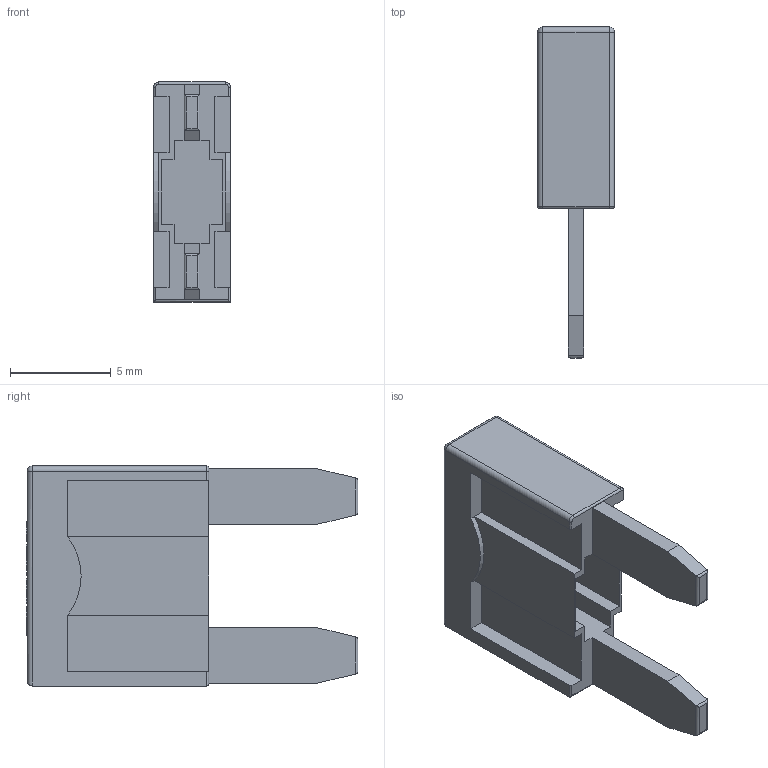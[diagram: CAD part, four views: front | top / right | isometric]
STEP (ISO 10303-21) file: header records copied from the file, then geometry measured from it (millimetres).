
FILE_DESCRIPTION(/* description */ (''),/* implementation_level */ '2;1');
FILE_NAME(/* name */ 'C:\Users\Hani\Desktop\work\ANM-UL\ANM-UL.stp',/* time_stamp */ '2021-08-29T08:37:53-07:00',/* author */ ('Hani'),/* organization */ (''),/* preprocessor_version */ 'ST-DEVELOPER v17',/* originating_system */ 'Autodesk Inventor 2019',/* authorisation */ '');
FILE_SCHEMA (('AUTOMOTIVE_DESIGN { 1 0 10303 214 3 1 1 }'));
Length unit declared in the file: inch
Products named in the file (1): ANM-UL
Bounding box: 3.8 x 16.43 x 10.9 mm (x, y, z)
Volume: 239.1 mm3; surface area: 592.2 mm2
Topology: 1 solids, 1 shells, 211 faces, 570 edges, 374 vertices
Faces by surface type: plane 118, bspline 67, cylinder 22, torus 2, sphere 2
Entity records: 7159 total; most frequent: CARTESIAN_POINT 2225, ORIENTED_EDGE 1140, DIRECTION 768, EDGE_CURVE 570, LINE 394, VECTOR 394, VERTEX_POINT 374, EDGE_LOOP 224
